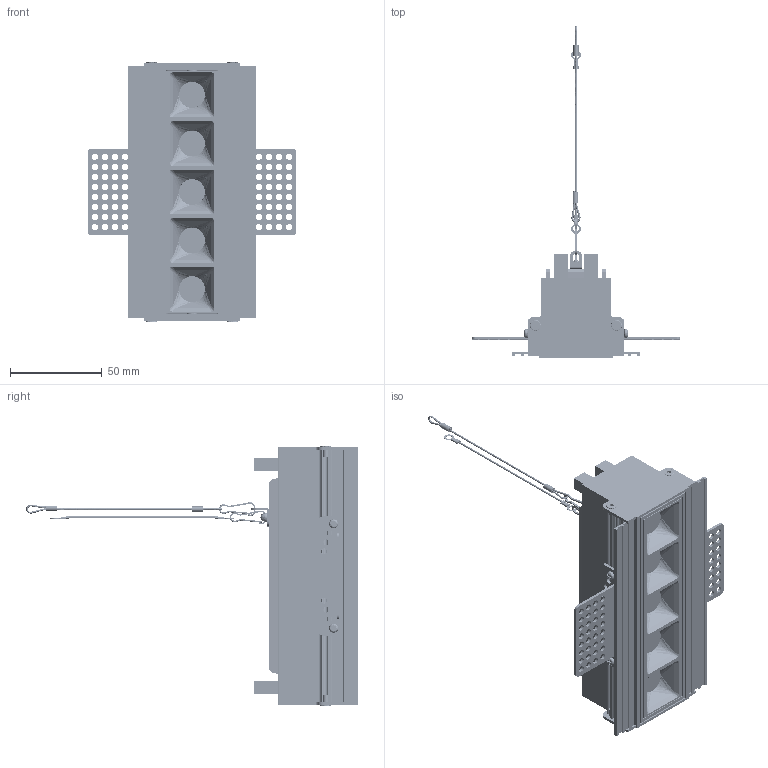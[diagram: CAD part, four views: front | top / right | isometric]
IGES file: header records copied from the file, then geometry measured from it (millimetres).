
Start section: SolidWorks IGES file using analytic representation for surfaces
Global section: file name: L:\Tecnico_PMT\R&D\PROGETTI ROADMAP 2022\013-INTEGRAZIONE PRODOTTI CINESI\KC\3D file\3D file\PATTERN 10W.IGS; native system: SolidWorks 2016; preprocessor: SolidWorks 2016; author: MariaMancini; date: 230407.145958; units: millimetre
Bounding box: 113.7 x 180.93 x 142 mm (x, y, z)
Surface area: 154849.7 mm2 (no closed solid volume)
Topology: 0 solids, 0 shells, 3450 faces, 41674 edges, 41601 vertices
Faces by surface type: bspline 2611, revolution 839
